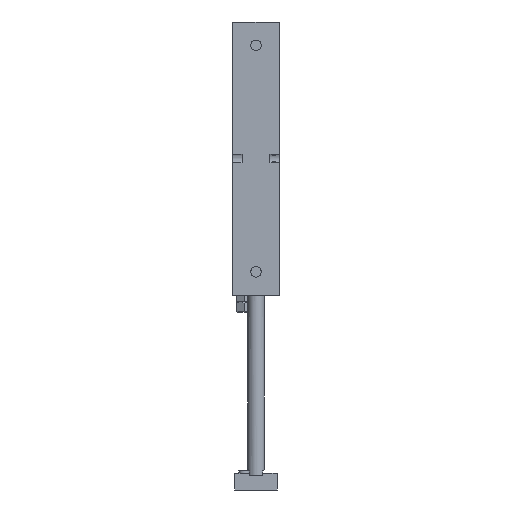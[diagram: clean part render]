
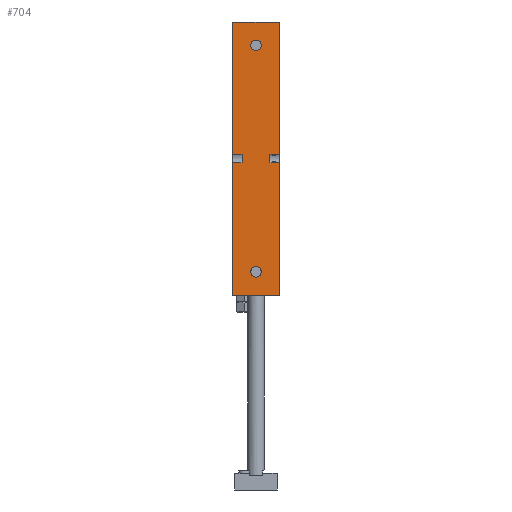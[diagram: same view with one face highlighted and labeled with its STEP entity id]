
A CAD part, front view. The second image highlights one B-rep face of the part: STEP entity #704.
In plain terms, the highlighted planar face has unit normal (0, -1, 0).
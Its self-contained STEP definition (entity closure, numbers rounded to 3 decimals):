
#195=CARTESIAN_POINT('',(2.5,-27.0,210.0));
#196=VERTEX_POINT('',#195);
#197=CARTESIAN_POINT('',(0.0,-27.0,210.0));
#198=DIRECTION('',(0.0,1.0,0.0));
#199=DIRECTION('',(-1.0,0.0,0.0));
#200=AXIS2_PLACEMENT_3D('',#197,#198,#199);
#201=CIRCLE('',#200,2.5);
#202=EDGE_CURVE('',#196,#196,#201,.T.);
#232=CARTESIAN_POINT('',(2.5,-27.0,103.));
#233=VERTEX_POINT('',#232);
#234=CARTESIAN_POINT('',(0.0,-27.0,103.));
#235=DIRECTION('',(0.0,1.0,0.0));
#236=DIRECTION('',(-1.0,0.0,0.0));
#237=AXIS2_PLACEMENT_3D('',#234,#235,#236);
#238=CIRCLE('',#237,2.5);
#239=EDGE_CURVE('',#233,#233,#238,.T.);
#485=CARTESIAN_POINT('',(-6.6,-27.0,158.436));
#486=VERTEX_POINT('',#485);
#487=CARTESIAN_POINT('',(-6.6,-27.0,154.564));
#488=VERTEX_POINT('',#487);
#489=CARTESIAN_POINT('',(-6.6,-27.0,158.436));
#490=DIRECTION('',(0.0,0.0,-1.0));
#491=VECTOR('',#490,3.873);
#492=LINE('',#489,#491);
#493=EDGE_CURVE('',#486,#488,#492,.T.);
#542=CARTESIAN_POINT('',(-11.,-27.0,158.436));
#543=VERTEX_POINT('',#542);
#544=CARTESIAN_POINT('',(-11.,-27.0,158.436));
#545=DIRECTION('',(1.0,0.0,0.0));
#546=VECTOR('',#545,4.4);
#547=LINE('',#544,#546);
#548=EDGE_CURVE('',#543,#486,#547,.T.);
#550=CARTESIAN_POINT('',(-11.,-27.0,154.564));
#551=VERTEX_POINT('',#550);
#559=CARTESIAN_POINT('',(-6.6,-27.0,154.564));
#560=DIRECTION('',(-1.0,0.0,0.0));
#561=VECTOR('',#560,4.4);
#562=LINE('',#559,#561);
#563=EDGE_CURVE('',#488,#551,#562,.T.);
#618=CARTESIAN_POINT('',(11.,-27.0,92.0));
#619=DIRECTION('',(0.0,-1.0,0.0));
#620=DIRECTION('',(0.0,0.0,-1.0));
#621=AXIS2_PLACEMENT_3D('',#618,#619,#620);
#622=PLANE('',#621);
#623=ORIENTED_EDGE('',*,*,#548,.T.);
#624=ORIENTED_EDGE('',*,*,#493,.T.);
#625=ORIENTED_EDGE('',*,*,#563,.T.);
#626=CARTESIAN_POINT('',(-11.,-27.0,92.0));
#627=VERTEX_POINT('',#626);
#628=CARTESIAN_POINT('',(-11.,-27.0,92.0));
#629=DIRECTION('',(0.0,0.0,1.0));
#630=VECTOR('',#629,62.564);
#631=LINE('',#628,#630);
#632=EDGE_CURVE('',#627,#551,#631,.T.);
#633=ORIENTED_EDGE('',*,*,#632,.F.);
#634=CARTESIAN_POINT('',(11.,-27.0,92.0));
#635=VERTEX_POINT('',#634);
#636=CARTESIAN_POINT('',(11.,-27.0,92.0));
#637=DIRECTION('',(-1.0,0.0,0.0));
#638=VECTOR('',#637,22.);
#639=LINE('',#636,#638);
#640=EDGE_CURVE('',#635,#627,#639,.T.);
#641=ORIENTED_EDGE('',*,*,#640,.F.);
#642=CARTESIAN_POINT('',(11.,-27.0,154.564));
#643=VERTEX_POINT('',#642);
#644=CARTESIAN_POINT('',(11.,-27.0,92.0));
#645=DIRECTION('',(0.0,0.0,1.0));
#646=VECTOR('',#645,62.564);
#647=LINE('',#644,#646);
#648=EDGE_CURVE('',#635,#643,#647,.T.);
#649=ORIENTED_EDGE('',*,*,#648,.T.);
#650=CARTESIAN_POINT('',(6.6,-27.0,154.564));
#651=VERTEX_POINT('',#650);
#652=CARTESIAN_POINT('',(11.,-27.0,154.564));
#653=DIRECTION('',(-1.0,0.0,0.0));
#654=VECTOR('',#653,4.4);
#655=LINE('',#652,#654);
#656=EDGE_CURVE('',#643,#651,#655,.T.);
#657=ORIENTED_EDGE('',*,*,#656,.T.);
#658=CARTESIAN_POINT('',(6.6,-27.0,158.436));
#659=VERTEX_POINT('',#658);
#660=CARTESIAN_POINT('',(6.6,-27.0,154.564));
#661=DIRECTION('',(0.0,0.0,1.0));
#662=VECTOR('',#661,3.873);
#663=LINE('',#660,#662);
#664=EDGE_CURVE('',#651,#659,#663,.T.);
#665=ORIENTED_EDGE('',*,*,#664,.T.);
#666=CARTESIAN_POINT('',(11.,-27.0,158.436));
#667=VERTEX_POINT('',#666);
#668=CARTESIAN_POINT('',(6.6,-27.0,158.436));
#669=DIRECTION('',(1.0,0.0,0.0));
#670=VECTOR('',#669,4.4);
#671=LINE('',#668,#670);
#672=EDGE_CURVE('',#659,#667,#671,.T.);
#673=ORIENTED_EDGE('',*,*,#672,.T.);
#674=CARTESIAN_POINT('',(11.,-27.0,221.0));
#675=VERTEX_POINT('',#674);
#676=CARTESIAN_POINT('',(11.,-27.0,158.436));
#677=DIRECTION('',(0.0,0.0,1.0));
#678=VECTOR('',#677,62.564);
#679=LINE('',#676,#678);
#680=EDGE_CURVE('',#667,#675,#679,.T.);
#681=ORIENTED_EDGE('',*,*,#680,.T.);
#682=CARTESIAN_POINT('',(-11.,-27.0,221.0));
#683=VERTEX_POINT('',#682);
#684=CARTESIAN_POINT('',(11.,-27.0,221.0));
#685=DIRECTION('',(-1.0,0.0,0.0));
#686=VECTOR('',#685,22.);
#687=LINE('',#684,#686);
#688=EDGE_CURVE('',#675,#683,#687,.T.);
#689=ORIENTED_EDGE('',*,*,#688,.T.);
#690=CARTESIAN_POINT('',(-11.,-27.0,158.436));
#691=DIRECTION('',(0.0,0.0,1.0));
#692=VECTOR('',#691,62.564);
#693=LINE('',#690,#692);
#694=EDGE_CURVE('',#543,#683,#693,.T.);
#695=ORIENTED_EDGE('',*,*,#694,.F.);
#696=EDGE_LOOP('',(#623,#624,#625,#633,#641,#649,#657,#665,#673,#681,#689,#695));
#697=FACE_OUTER_BOUND('',#696,.T.);
#698=ORIENTED_EDGE('',*,*,#202,.T.);
#699=EDGE_LOOP('',(#698));
#700=FACE_BOUND('',#699,.T.);
#701=ORIENTED_EDGE('',*,*,#239,.T.);
#702=EDGE_LOOP('',(#701));
#703=FACE_BOUND('',#702,.T.);
#704=ADVANCED_FACE('',(#697,#700,#703),#622,.T.);
